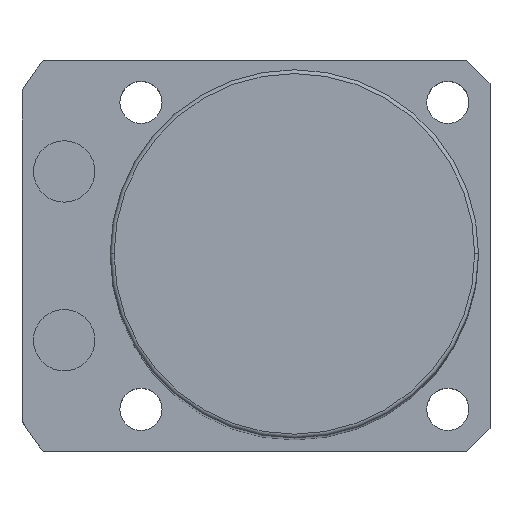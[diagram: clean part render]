
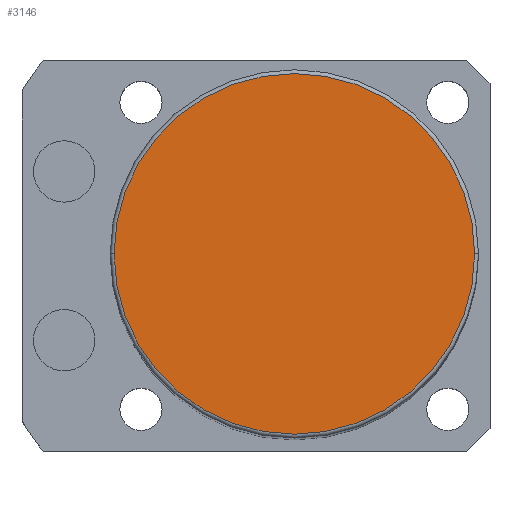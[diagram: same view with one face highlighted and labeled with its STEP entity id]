
A CAD part, top view. The second image highlights one B-rep face of the part: STEP entity #3146.
In plain terms, the highlighted planar face has unit normal (0, 0, 1).
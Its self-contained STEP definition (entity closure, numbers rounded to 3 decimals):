
#75 = VERTEX_POINT ( 'NONE', #5951 ) ;
#388 = DIRECTION ( 'NONE',  ( 0., 0., 1. ) ) ;
#497 = CARTESIAN_POINT ( 'NONE',  ( 0., 0., 156. ) ) ;
#830 = DIRECTION ( 'NONE',  ( 1., 0., 0. ) ) ;
#972 = EDGE_CURVE ( 'NONE', #5602, #75, #1571, .T. ) ;
#1305 = DIRECTION ( 'NONE',  ( 0., 0., 1. ) ) ;
#1571 = CIRCLE ( 'NONE', #3865, 23.5 ) ;
#2007 = EDGE_LOOP ( 'NONE', ( #4390, #5002 ) ) ;
#2126 = FACE_OUTER_BOUND ( 'NONE', #2007, .T. ) ;
#3143 = AXIS2_PLACEMENT_3D ( 'NONE', #4800, #1305, #830 ) ;
#3146 = ADVANCED_FACE ( 'NONE', ( #2126 ), #4397, .T. ) ;
#3310 = CARTESIAN_POINT ( 'NONE',  ( 23.5, 0., 156. ) ) ;
#3416 = AXIS2_PLACEMENT_3D ( 'NONE', #5410, #388, #4421 ) ;
#3455 = EDGE_CURVE ( 'NONE', #75, #5602, #5817, .T. ) ;
#3479 = DIRECTION ( 'NONE',  ( 0., 0., 1. ) ) ;
#3865 = AXIS2_PLACEMENT_3D ( 'NONE', #497, #3479, #5028 ) ;
#4390 = ORIENTED_EDGE ( 'NONE', *, *, #972, .T. ) ;
#4397 = PLANE ( 'NONE',  #3416 ) ;
#4421 = DIRECTION ( 'NONE',  ( 1., 0., 0. ) ) ;
#4800 = CARTESIAN_POINT ( 'NONE',  ( 0., 0., 156. ) ) ;
#5002 = ORIENTED_EDGE ( 'NONE', *, *, #3455, .T. ) ;
#5028 = DIRECTION ( 'NONE',  ( 1., 0., 0. ) ) ;
#5410 = CARTESIAN_POINT ( 'NONE',  ( 0., 0., 156. ) ) ;
#5602 = VERTEX_POINT ( 'NONE', #3310 ) ;
#5817 = CIRCLE ( 'NONE', #3143, 23.5 ) ;
#5951 = CARTESIAN_POINT ( 'NONE',  ( -23.5, 0., 156. ) ) ;
